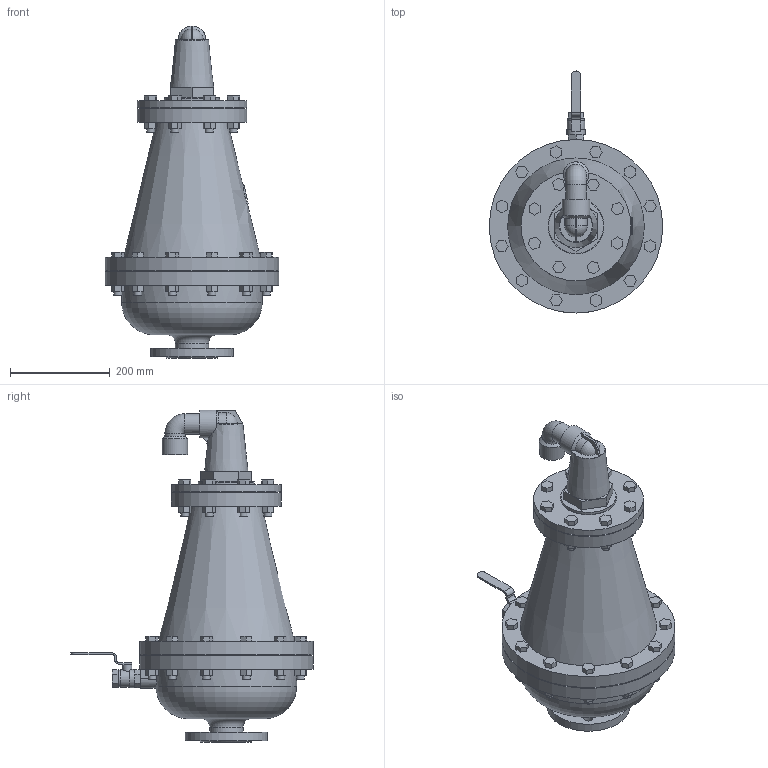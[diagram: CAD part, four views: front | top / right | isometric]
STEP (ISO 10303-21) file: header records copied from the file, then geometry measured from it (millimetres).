
FILE_DESCRIPTION(('STEP AP203'), '1');
FILE_NAME('A10FK_Dn50_左泱眄', '', ('UNSPECIFIED'), ('UNSPECIFIED'), 'ASCON STEP Converter 1.6', 'ASCON Math Kernel', '');
FILE_SCHEMA(('CONFIG_CONTROL_DESIGN'));
Length unit declared in the file: millimetre
Bounding box: 348 x 485.67 x 666 mm (x, y, z)
Volume: 7647013.6 mm3; surface area: 1132666.6 mm2
Topology: 1 solids, 2 shells, 599 faces, 1504 edges, 984 vertices
Faces by surface type: plane 473, cylinder 85, cone 34, torus 5, sphere 2
Full cylindrical faces by diameter (mm): 16 x20, 18 x5, 18.5 x1, 33 x1, 35 x1, 37 x1, 41 x2, 43 x1, 50 x1, 51 x1, 56 x1, 67 x1, 86 x1, 110 x1, 112 x1, 165 x1, 220 x2, 348 x2
Entity records: 23811 total; most frequent: CARTESIAN_POINT 4818, ORIENTED_EDGE 2840, DIRECTION 2800, EDGE_CURVE 1420, LINE 1136, VECTOR 1136, VERTEX_POINT 983, AXIS2_PLACEMENT_3D 832
